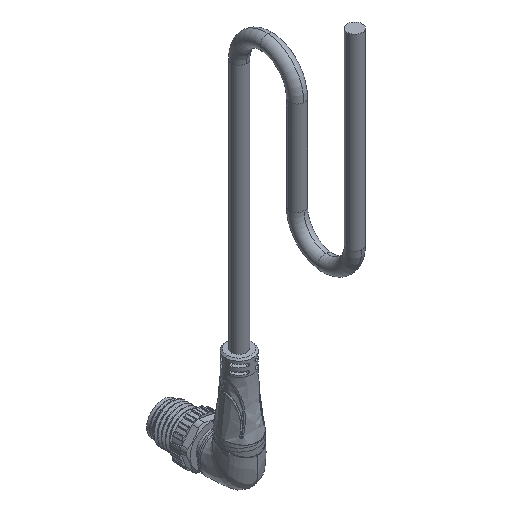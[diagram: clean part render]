
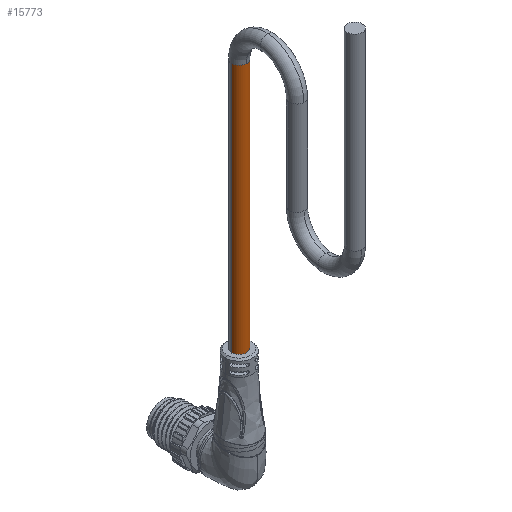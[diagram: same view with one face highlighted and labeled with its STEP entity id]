
A CAD part, isometric view. The second image highlights one B-rep face of the part: STEP entity #15773.
In plain terms, the highlighted cylindrical face has radius 2.4 mm (diameter 4.8 mm), a partial arc.
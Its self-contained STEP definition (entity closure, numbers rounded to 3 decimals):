
#249 = EDGE_CURVE ( 'NONE', #3703, #26911, #7622, .T. ) ;
#982 = AXIS2_PLACEMENT_3D ( 'NONE', #11357, #38863, #14692 ) ;
#1364 = LINE ( 'NONE', #37553, #29956 ) ;
#1386 = ORIENTED_EDGE ( 'NONE', *, *, #11755, .T. ) ;
#1922 = CARTESIAN_POINT ( 'NONE',  ( -2.4, 40., 0. ) ) ;
#3703 = VERTEX_POINT ( 'NONE', #35014 ) ;
#4591 = VERTEX_POINT ( 'NONE', #6290 ) ;
#5260 = CARTESIAN_POINT ( 'NONE',  ( 0., 40., -90. ) ) ;
#6290 = CARTESIAN_POINT ( 'NONE',  ( 2.4, 40., -90. ) ) ;
#7622 = CIRCLE ( 'NONE', #15822, 2.4 ) ;
#9820 = VERTEX_POINT ( 'NONE', #10848 ) ;
#10848 = CARTESIAN_POINT ( 'NONE',  ( -2.4, 40., 0. ) ) ;
#11098 = DIRECTION ( 'NONE',  ( -1., 0., 0. ) ) ;
#11357 = CARTESIAN_POINT ( 'NONE',  ( 0., 40., 0. ) ) ;
#11755 = EDGE_CURVE ( 'NONE', #26911, #9820, #19885, .T. ) ;
#11800 = VECTOR ( 'NONE', #22874, 1000. ) ;
#12808 = CIRCLE ( 'NONE', #25433, 2.4 ) ;
#12824 = CARTESIAN_POINT ( 'NONE',  ( 0., 37.6, 0. ) ) ;
#13895 = ORIENTED_EDGE ( 'NONE', *, *, #249, .T. ) ;
#14692 = DIRECTION ( 'NONE',  ( -1., 0., 0. ) ) ;
#14818 = ORIENTED_EDGE ( 'NONE', *, *, #29273, .T. ) ;
#14985 = ORIENTED_EDGE ( 'NONE', *, *, #17813, .F. ) ;
#15773 = ADVANCED_FACE ( 'NONE', ( #17208 ), #30084, .T. ) ;
#15822 = AXIS2_PLACEMENT_3D ( 'NONE', #36715, #31497, #11098 ) ;
#17208 = FACE_OUTER_BOUND ( 'NONE', #23062, .T. ) ;
#17293 = DIRECTION ( 'NONE',  ( -1., 0., 0. ) ) ;
#17412 = CARTESIAN_POINT ( 'NONE',  ( 0., 40., 0. ) ) ;
#17813 = EDGE_CURVE ( 'NONE', #4591, #23134, #12808, .T. ) ;
#19689 = EDGE_CURVE ( 'NONE', #3703, #4591, #1364, .T. ) ;
#19885 = CIRCLE ( 'NONE', #982, 2.4 ) ;
#22874 = DIRECTION ( 'NONE',  ( 0., 0., -1. ) ) ;
#23062 = EDGE_LOOP ( 'NONE', ( #39065, #13895, #1386, #14818, #14985 ) ) ;
#23134 = VERTEX_POINT ( 'NONE', #35614 ) ;
#25433 = AXIS2_PLACEMENT_3D ( 'NONE', #5260, #29572, #17293 ) ;
#25647 = LINE ( 'NONE', #1922, #11800 ) ;
#26705 = DIRECTION ( 'NONE',  ( -1., 0., 0. ) ) ;
#26911 = VERTEX_POINT ( 'NONE', #12824 ) ;
#28077 = DIRECTION ( 'NONE',  ( 0., 0., -1. ) ) ;
#29273 = EDGE_CURVE ( 'NONE', #9820, #23134, #25647, .T. ) ;
#29298 = DIRECTION ( 'NONE',  ( 0., 0., -1. ) ) ;
#29572 = DIRECTION ( 'NONE',  ( 0., 0., -1. ) ) ;
#29956 = VECTOR ( 'NONE', #28077, 1000. ) ;
#30084 = CYLINDRICAL_SURFACE ( 'NONE', #35470, 2.4 ) ;
#31497 = DIRECTION ( 'NONE',  ( 0., 0., -1. ) ) ;
#35014 = CARTESIAN_POINT ( 'NONE',  ( 2.4, 40., 0. ) ) ;
#35470 = AXIS2_PLACEMENT_3D ( 'NONE', #17412, #29298, #26705 ) ;
#35614 = CARTESIAN_POINT ( 'NONE',  ( -2.4, 40., -90. ) ) ;
#36715 = CARTESIAN_POINT ( 'NONE',  ( 0., 40., 0. ) ) ;
#37553 = CARTESIAN_POINT ( 'NONE',  ( 2.4, 40., 0. ) ) ;
#38863 = DIRECTION ( 'NONE',  ( 0., 0., -1. ) ) ;
#39065 = ORIENTED_EDGE ( 'NONE', *, *, #19689, .F. ) ;
